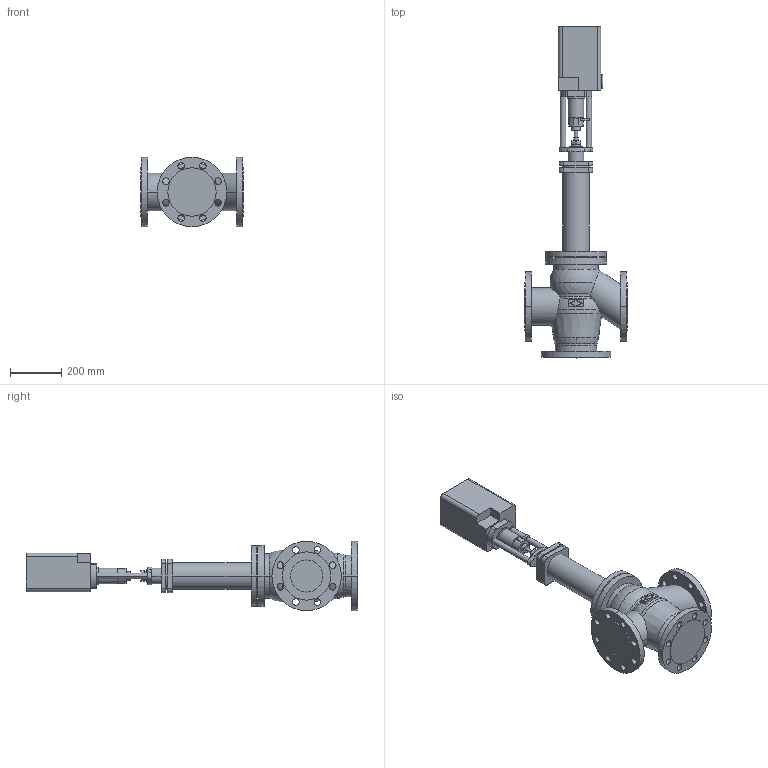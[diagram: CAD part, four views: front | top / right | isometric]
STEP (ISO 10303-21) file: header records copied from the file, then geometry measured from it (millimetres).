
FILE_DESCRIPTION(('OneSpaceDesigner STEP Export'),'2;1');
FILE_NAME('c000000425.stp','2007-01-24T13:12:11',(''),(''),'OneSpace Designer STEP processor for AP214 (Solid Model)','OneSpace Designer 14.00B 27-May-2006 (C) CoCreate Software GmbH','');
FILE_SCHEMA(('AUTOMOTIVE_DESIGN { 1 0 10303 214 1 1 1 1 }'));
Length unit declared in the file: millimetre
Products named in the file (2): 1; 2
Bounding box: 400 x 1293.2 x 270 mm (x, y, z)
Volume: 28906706.1 mm3; surface area: 1214896.6 mm2
Topology: 2 solids, 2 shells, 254 faces, 652 edges, 426 vertices
Faces by surface type: cylinder 134, plane 100, torus 10, sphere 8, cone 2
Entity records: 7246 total; most frequent: CARTESIAN_POINT 1454, ORIENTED_EDGE 1288, DIRECTION 1075, EDGE_CURVE 644, VERTEX_POINT 426, AXIS2_PLACEMENT_3D 388, EDGE_LOOP 334, VECTOR 299
